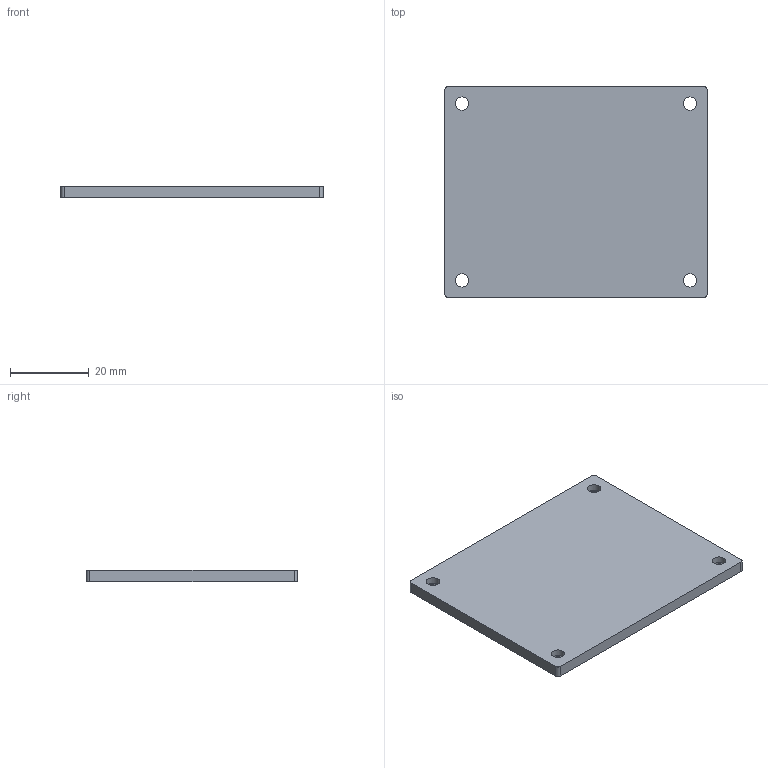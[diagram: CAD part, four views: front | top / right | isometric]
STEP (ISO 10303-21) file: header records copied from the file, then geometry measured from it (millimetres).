
FILE_DESCRIPTION(('Open CASCADE Model'),'2;1');
FILE_NAME('Open CASCADE Shape Model','2026-11-06T11:55:26',('Author'),( 'Open CASCADE'),'Open CASCADE STEP processor 8.0','build123d', 'Unknown');
FILE_SCHEMA(('AUTOMOTIVE_DESIGN { 1 0 10303 214 1 1 1 1 }'));
Length unit declared in the file: millimetre
Products named in the file (1): COMPOUND
Bounding box: 66.8 x 53.8 x 3 mm (x, y, z)
Volume: 10625.2 mm3; surface area: 7937.1 mm2
Topology: 1 solids, 1 shells, 18 faces, 44 edges, 28 vertices
Faces by surface type: cylinder 8, plane 6, cone 4
Full cylindrical faces by diameter (mm): 3.4 x4
Entity records: 1134 total; most frequent: DIRECTION 190, CARTESIAN_POINT 179, LINE 96, VECTOR 96, ORIENTED_EDGE 88, PCURVE 88, DEFINITIONAL_REPRESENTATION 88, EDGE_CURVE 44
